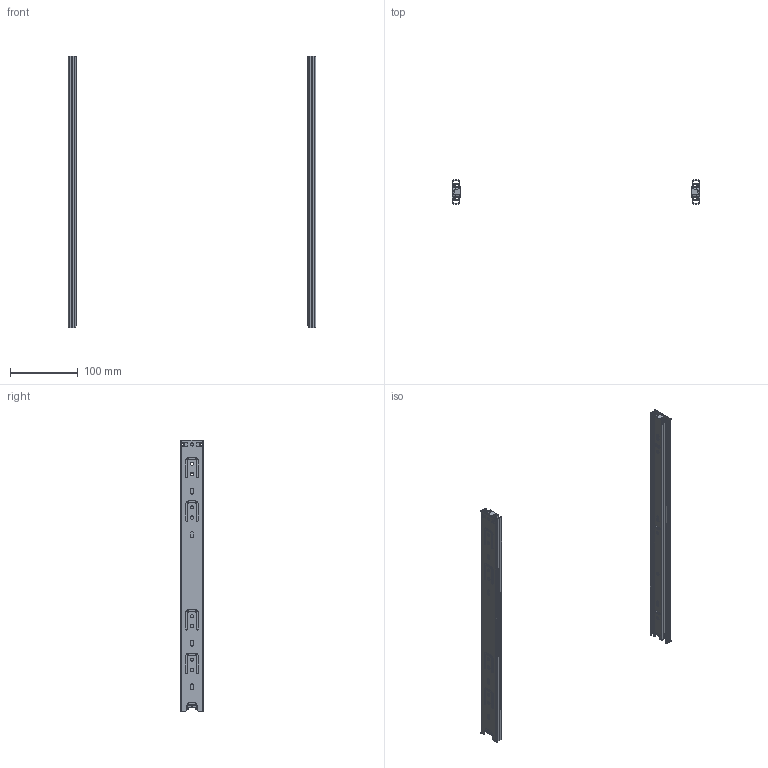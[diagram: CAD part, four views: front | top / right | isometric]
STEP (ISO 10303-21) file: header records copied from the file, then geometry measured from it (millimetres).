
FILE_DESCRIPTION(/* description */ (''),/* implementation_level */ '2;1');
FILE_NAME(/* name */ 'D:\$Workingspace\Designs\Katalog\Cadsoft\GTV Prowadnice\PK-0-H35-...-L\PK-0-H35-4000L.stp',/* time_stamp */ '2021-06-24T10:13:59+02:00',/* author */ ('tomaszw'),/* organization */ (''),/* preprocessor_version */ 'ST-DEVELOPER v18.1',/* originating_system */ 'Autodesk Inventor 2021',/* authorisation */ '');
FILE_SCHEMA (('AUTOMOTIVE_DESIGN { 1 0 10303 214 3 1 1 }'));
Length unit declared in the file: millimetre
Products named in the file (5): PK-0H35-400_L; PK-0H35_1-400_L; PK-0H35_2-400_L; PK-0H35_3-400_L; Blokada_3
Assembly tree (8 placements, depth 2):
  PK-0H35-400_L
    PK-0H35_1-400_L  x2
    PK-0H35_2-400_L  x2
    PK-0H35_3-400_L  x2
    Blokada_3  x2
Bounding box: 364 x 35.2 x 400 mm (x, y, z)
Volume: 78899.2 mm3; surface area: 201524 mm2
Topology: 8 solids, 8 shells, 522 faces, 1518 edges, 1012 vertices
Faces by surface type: plane 264, cylinder 258
Full cylindrical faces by diameter (mm): 4.5 x16, 5 x10
Entity records: 9358 total; most frequent: DIRECTION 1567, CARTESIAN_POINT 1540, ORIENTED_EDGE 1518, EDGE_CURVE 759, AXIS2_PLACEMENT_3D 533, VERTEX_POINT 506, LINE 501, VECTOR 501
